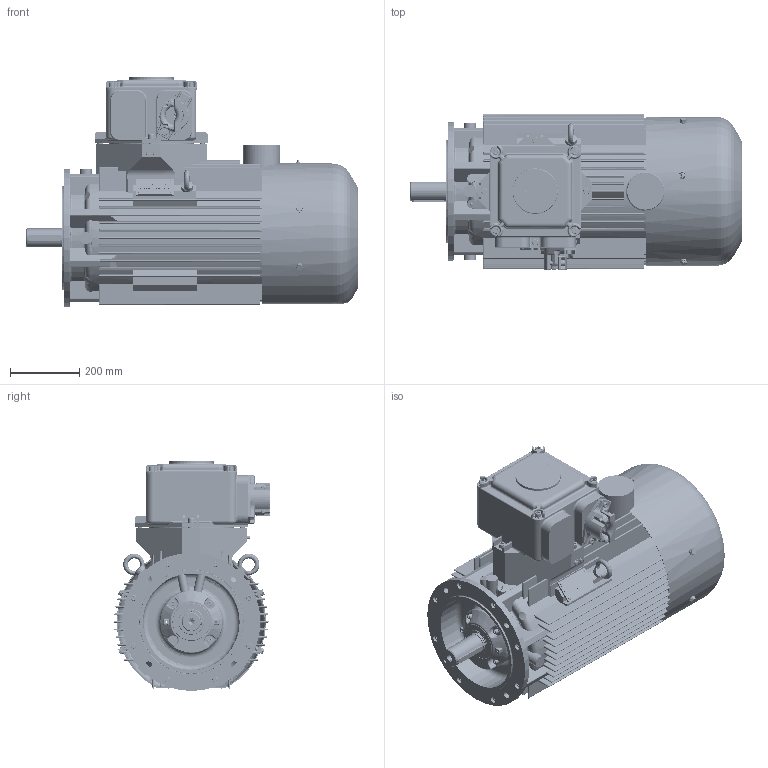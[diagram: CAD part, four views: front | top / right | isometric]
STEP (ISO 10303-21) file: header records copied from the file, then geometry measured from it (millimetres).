
FILE_DESCRIPTION(/* description */ ('Unknown'),/* implementation_level */ '2;1');
FILE_NAME(/* name */ 'EcSTKe200L(2-8)-(IE2-3) - wykonwnie OUTSIDE !',/* time_stamp */ '2021-12-22T13:17:51+01:00',/* author */ ('Unknown'),/* organization */ ('Unknown'),/* preprocessor_version */ 'ST-DEVELOPER v16.7',/* originating_system */ 'DEX',/* authorisation */ $);
FILE_SCHEMA (('AUTOMOTIVE_DESIGN {1 0 10303 214 3 1 1}'));
Products named in the file (1): EcSTKe200L(2-8)-(IE2-3) - wykonwnie OUTSIDE
Bounding box: 960.63 x 452 x 665.53 mm (x, y, z)
Volume: 27195944.4 mm3; surface area: 6272033.9 mm2
Topology: 141 solids, 142 shells, 7339 faces, 19171 edges, 12307 vertices
Faces by surface type: plane 4364, cylinder 1585, torus 462, cone 428, bspline 387, sphere 113
Full cylindrical faces by diameter (mm): 1.2 x4, 1.6 x2, 2.013 x1, 2.5 x6, 3 x4, 3.1 x4, 3.2 x2, 3.4 x4, 4.773 x2, 5 x3, 5.35 x2, 6 x6, 6.2 x3, 6.4 x2, 6.466 x4, 6.5 x2, 6.647 x4, 8 x14, 8.16 x32, 8.5 x4, 8.8 x1, 8.917 x3, 9 x4, 9.853 x9, 10 x69, 10.106 x4, 10.5 x4, 11 x24, 12 x22, 13 x10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
Entity records: 260848 total; most frequent: CARTESIAN_POINT 68279, ORIENTED_EDGE 36310, DIRECTION 34726, EDGE_CURVE 18155, VERTEX_POINT 12079, LINE 11804, VECTOR 11804, AXIS2_PLACEMENT_3D 11461
